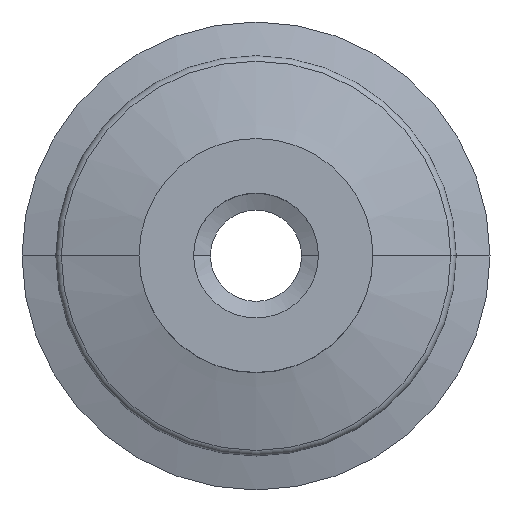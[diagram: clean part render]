
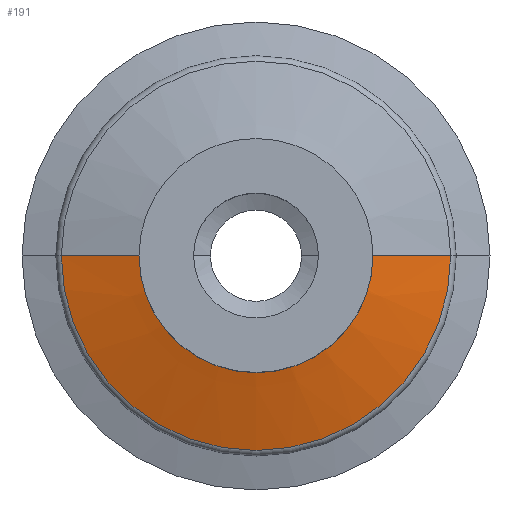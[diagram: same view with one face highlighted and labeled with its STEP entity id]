
A CAD part, top view. The second image highlights one B-rep face of the part: STEP entity #191.
In plain terms, the highlighted conical face has half-angle 73.377 degrees and reference radius 14.19 mm.
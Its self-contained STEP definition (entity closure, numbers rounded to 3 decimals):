
#7 = CIRCLE ( 'NONE', #678, 4.362 ) ;
#15 = CARTESIAN_POINT ( 'NONE',  ( 4.362, 0., -9.392 ) ) ;
#16 = DIRECTION ( 'NONE',  ( 0., 0., -1. ) ) ;
#54 = LINE ( 'NONE', #433, #338 ) ;
#72 = VERTEX_POINT ( 'NONE', #697 ) ;
#93 = ORIENTED_EDGE ( 'NONE', *, *, #577, .T. ) ;
#113 = FACE_OUTER_BOUND ( 'NONE', #520, .T. ) ;
#165 = CARTESIAN_POINT ( 'NONE',  ( 14.19, 0., -12.326 ) ) ;
#172 = DIRECTION ( 'NONE',  ( 1., 0., 0. ) ) ;
#191 = ADVANCED_FACE ( 'NONE', ( #113 ), #692, .T. ) ;
#193 = AXIS2_PLACEMENT_3D ( 'NONE', #255, #16, #449 ) ;
#195 = LINE ( 'NONE', #165, #673 ) ;
#215 = VERTEX_POINT ( 'NONE', #15 ) ;
#247 = DIRECTION ( 'NONE',  ( -0.958, 0., -0.286 ) ) ;
#255 = CARTESIAN_POINT ( 'NONE',  ( 0., 0., -12.326 ) ) ;
#259 = AXIS2_PLACEMENT_3D ( 'NONE', #335, #475, #172 ) ;
#287 = DIRECTION ( 'NONE',  ( 1., 0., 0. ) ) ;
#302 = VERTEX_POINT ( 'NONE', #463 ) ;
#335 = CARTESIAN_POINT ( 'NONE',  ( 0., 0., -11.814 ) ) ;
#338 = VECTOR ( 'NONE', #247, 1000. ) ;
#344 = CARTESIAN_POINT ( 'NONE',  ( 12.476, 0., -11.814 ) ) ;
#347 = DIRECTION ( 'NONE',  ( 0., 0., 1. ) ) ;
#430 = ORIENTED_EDGE ( 'NONE', *, *, #441, .F. ) ;
#433 = CARTESIAN_POINT ( 'NONE',  ( -14.19, 0., -12.326 ) ) ;
#441 = EDGE_CURVE ( 'NONE', #72, #215, #7, .T. ) ;
#449 = DIRECTION ( 'NONE',  ( -1., 0., 0. ) ) ;
#458 = VERTEX_POINT ( 'NONE', #344 ) ;
#463 = CARTESIAN_POINT ( 'NONE',  ( -12.476, 0., -11.814 ) ) ;
#472 = DIRECTION ( 'NONE',  ( 0.958, 0., -0.286 ) ) ;
#475 = DIRECTION ( 'NONE',  ( 0., 0., 1. ) ) ;
#498 = ORIENTED_EDGE ( 'NONE', *, *, #772, .F. ) ;
#520 = EDGE_LOOP ( 'NONE', ( #498, #430, #681, #93 ) ) ;
#577 = EDGE_CURVE ( 'NONE', #302, #458, #684, .T. ) ;
#673 = VECTOR ( 'NONE', #472, 1000. ) ;
#678 = AXIS2_PLACEMENT_3D ( 'NONE', #718, #347, #287 ) ;
#681 = ORIENTED_EDGE ( 'NONE', *, *, #781, .T. ) ;
#684 = CIRCLE ( 'NONE', #259, 12.476 ) ;
#692 = CONICAL_SURFACE ( 'NONE', #193, 14.19, 1.281 ) ;
#697 = CARTESIAN_POINT ( 'NONE',  ( -4.362, 0., -9.392 ) ) ;
#718 = CARTESIAN_POINT ( 'NONE',  ( 0., 0., -9.392 ) ) ;
#772 = EDGE_CURVE ( 'NONE', #215, #458, #195, .T. ) ;
#781 = EDGE_CURVE ( 'NONE', #72, #302, #54, .T. ) ;
